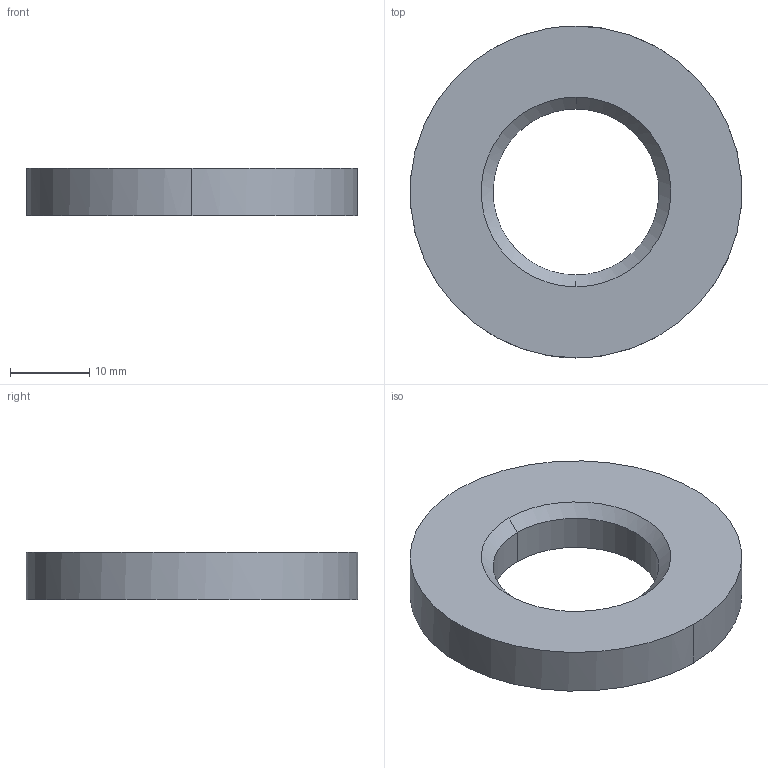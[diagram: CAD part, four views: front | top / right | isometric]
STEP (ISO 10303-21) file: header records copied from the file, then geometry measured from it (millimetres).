
FILE_DESCRIPTION (( 'STEP AP214' ), '1' );
FILE_NAME ('SM71-M20-300kN U-Scheibe.STEP', '2022-02-15T10:21:38', ( '' ), ( '' ), 'SwSTEP 2.0', 'SolidWorks 2019', '' );
FILE_SCHEMA (( 'AUTOMOTIVE_DESIGN' ));
Length unit declared in the file: millimetre
Products named in the file (2): SM71-M20-300kN U-Scheibe
Bounding box: 41.87 x 42 x 6 mm (x, y, z)
Volume: 6156.8 mm3; surface area: 3210.7 mm2
Topology: 1 solids, 1 shells, 8 faces, 16 edges, 10 vertices
Faces by surface type: bspline 6, plane 2
Entity records: 401 total; most frequent: CARTESIAN_POINT 218, ORIENTED_EDGE 32, EDGE_CURVE 16, DIRECTION 14, EDGE_LOOP 10, B_SPLINE_CURVE_WITH_KNOTS 10, VERTEX_POINT 10, ADVANCED_FACE 8
